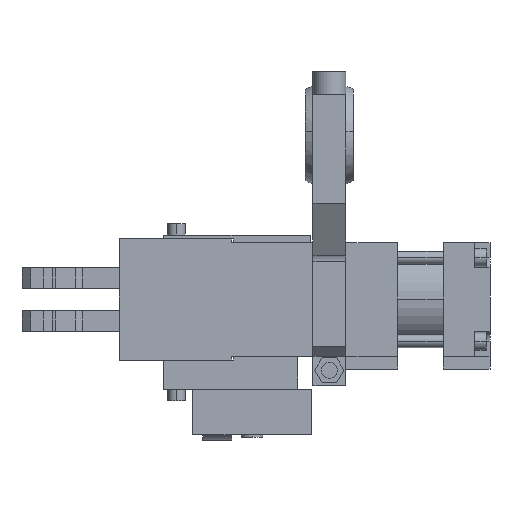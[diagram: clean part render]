
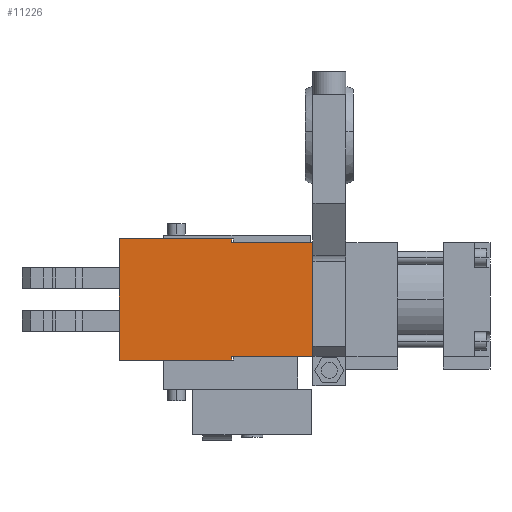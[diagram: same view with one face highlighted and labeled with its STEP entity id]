
A CAD part, left-side view. The second image highlights one B-rep face of the part: STEP entity #11226.
In plain terms, the highlighted planar face has unit normal (-1, 0, 0).
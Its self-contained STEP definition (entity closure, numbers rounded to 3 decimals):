
#34 = FACE_OUTER_BOUND ( 'NONE', #2895, .T. ) ;
#143 = CARTESIAN_POINT ( 'NONE',  ( -22.5, 36.5, -24. ) ) ;
#330 = ORIENTED_EDGE ( 'NONE', *, *, #11392, .F. ) ;
#400 = CARTESIAN_POINT ( 'NONE',  ( -22.5, -8., -24. ) ) ;
#708 = ORIENTED_EDGE ( 'NONE', *, *, #4993, .F. ) ;
#972 = DIRECTION ( 'NONE',  ( 0., 0., -1. ) ) ;
#998 = VERTEX_POINT ( 'NONE', #1334 ) ;
#1201 = VERTEX_POINT ( 'NONE', #15332 ) ;
#1334 = CARTESIAN_POINT ( 'NONE',  ( -22.5, -40., -22.5 ) ) ;
#1538 = EDGE_CURVE ( 'NONE', #8749, #13998, #9382, .T. ) ;
#2123 = EDGE_CURVE ( 'NONE', #13998, #998, #14371, .T. ) ;
#2243 = EDGE_CURVE ( 'NONE', #8820, #12418, #10197, .T. ) ;
#2273 = EDGE_CURVE ( 'NONE', #1201, #2684, #11614, .T. ) ;
#2540 = ORIENTED_EDGE ( 'NONE', *, *, #2273, .F. ) ;
#2607 = VERTEX_POINT ( 'NONE', #143 ) ;
#2684 = VERTEX_POINT ( 'NONE', #15218 ) ;
#2895 = EDGE_LOOP ( 'NONE', ( #2540, #708, #15124, #10798, #5835, #330, #13000, #8917 ) ) ;
#3159 = PLANE ( 'NONE',  #11968 ) ;
#3962 = VECTOR ( 'NONE', #972, 1000. ) ;
#4200 = CARTESIAN_POINT ( 'NONE',  ( -22.5, 22., 22.5 ) ) ;
#4343 = LINE ( 'NONE', #6117, #11325 ) ;
#4993 = EDGE_CURVE ( 'NONE', #2607, #1201, #4343, .T. ) ;
#5408 = DIRECTION ( 'NONE',  ( 0., -1., 0. ) ) ;
#5835 = ORIENTED_EDGE ( 'NONE', *, *, #2123, .T. ) ;
#6117 = CARTESIAN_POINT ( 'NONE',  ( -22.5, 36.5, 24. ) ) ;
#6155 = DIRECTION ( 'NONE',  ( 0., 0., 1. ) ) ;
#7392 = LINE ( 'NONE', #9961, #3962 ) ;
#7917 = VECTOR ( 'NONE', #13612, 1000. ) ;
#7996 = DIRECTION ( 'NONE',  ( 0., 0., -1. ) ) ;
#8152 = VECTOR ( 'NONE', #7996, 1000. ) ;
#8346 = DIRECTION ( 'NONE',  ( 0., 1., 0. ) ) ;
#8749 = VERTEX_POINT ( 'NONE', #15815 ) ;
#8820 = VERTEX_POINT ( 'NONE', #10926 ) ;
#8917 = ORIENTED_EDGE ( 'NONE', *, *, #16003, .F. ) ;
#9345 = VECTOR ( 'NONE', #5408, 1000. ) ;
#9382 = LINE ( 'NONE', #400, #15362 ) ;
#9961 = CARTESIAN_POINT ( 'NONE',  ( -22.5, -40., 12.5 ) ) ;
#10197 = LINE ( 'NONE', #4200, #9345 ) ;
#10305 = CARTESIAN_POINT ( 'NONE',  ( -22.5, 22., -22.5 ) ) ;
#10595 = CARTESIAN_POINT ( 'NONE',  ( -22.5, -8., 24. ) ) ;
#10798 = ORIENTED_EDGE ( 'NONE', *, *, #1538, .T. ) ;
#10926 = CARTESIAN_POINT ( 'NONE',  ( -22.5, -8., 22.5 ) ) ;
#11226 = ADVANCED_FACE ( 'NONE', ( #34 ), #3159, .F. ) ;
#11325 = VECTOR ( 'NONE', #6155, 1000. ) ;
#11392 = EDGE_CURVE ( 'NONE', #12418, #998, #7392, .T. ) ;
#11424 = CARTESIAN_POINT ( 'NONE',  ( -22.5, -8., -22.5 ) ) ;
#11614 = LINE ( 'NONE', #16042, #14562 ) ;
#11645 = LINE ( 'NONE', #10595, #8152 ) ;
#11968 = AXIS2_PLACEMENT_3D ( 'NONE', #12244, #16012, #8346 ) ;
#12244 = CARTESIAN_POINT ( 'NONE',  ( -22.5, 22., 12.5 ) ) ;
#12418 = VERTEX_POINT ( 'NONE', #13398 ) ;
#13000 = ORIENTED_EDGE ( 'NONE', *, *, #2243, .F. ) ;
#13398 = CARTESIAN_POINT ( 'NONE',  ( -22.5, -40., 22.5 ) ) ;
#13399 = DIRECTION ( 'NONE',  ( 0., -1., 0. ) ) ;
#13612 = DIRECTION ( 'NONE',  ( 0., -1., 0. ) ) ;
#13639 = LINE ( 'NONE', #15915, #16575 ) ;
#13998 = VERTEX_POINT ( 'NONE', #11424 ) ;
#14371 = LINE ( 'NONE', #10305, #7917 ) ;
#14540 = DIRECTION ( 'NONE',  ( 0., 0., 1. ) ) ;
#14562 = VECTOR ( 'NONE', #16093, 1000. ) ;
#15124 = ORIENTED_EDGE ( 'NONE', *, *, #15521, .T. ) ;
#15218 = CARTESIAN_POINT ( 'NONE',  ( -22.5, -8., 24. ) ) ;
#15332 = CARTESIAN_POINT ( 'NONE',  ( -22.5, 36.5, 24. ) ) ;
#15362 = VECTOR ( 'NONE', #14540, 1000. ) ;
#15521 = EDGE_CURVE ( 'NONE', #2607, #8749, #13639, .T. ) ;
#15815 = CARTESIAN_POINT ( 'NONE',  ( -22.5, -8., -24. ) ) ;
#15915 = CARTESIAN_POINT ( 'NONE',  ( -22.5, 22., -24. ) ) ;
#16003 = EDGE_CURVE ( 'NONE', #2684, #8820, #11645, .T. ) ;
#16012 = DIRECTION ( 'NONE',  ( 1., 0., 0. ) ) ;
#16042 = CARTESIAN_POINT ( 'NONE',  ( -22.5, 22., 24. ) ) ;
#16093 = DIRECTION ( 'NONE',  ( 0., -1., 0. ) ) ;
#16575 = VECTOR ( 'NONE', #13399, 1000. ) ;
